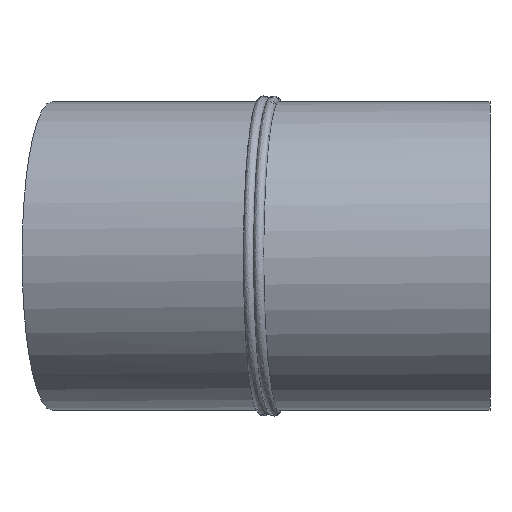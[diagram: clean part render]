
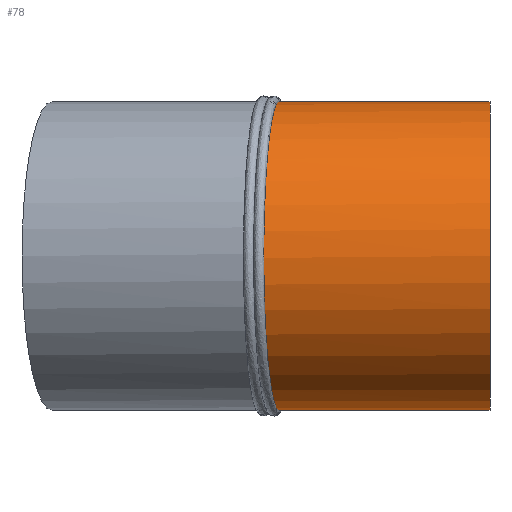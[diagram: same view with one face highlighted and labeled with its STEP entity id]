
A CAD part, left-side view. The second image highlights one B-rep face of the part: STEP entity #78.
In plain terms, the highlighted cylindrical face has radius 225 mm (diameter 450 mm), a full revolution.
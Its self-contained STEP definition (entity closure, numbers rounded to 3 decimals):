
#32=B_SPLINE_CURVE_WITH_KNOTS('',3,(#131,#132,#133,#134,#135,#136,#137,
#138,#139,#140,#141,#142,#143,#144,#145,#146,#147,#148,#149,#150,#151,#152,
#153,#154,#155,#156,#157,#158,#159,#160,#161,#162,#163,#164,#165,#166,#167,
#168,#169,#170,#171,#172,#173,#174,#175,#176,#177,#178,#179,#180,#181,#182,
#183,#184,#185,#186,#187,#188,#189,#190,#191,#192,#193,#194,#195,#196,#197,
#198,#199,#200,#201,#202,#203,#204,#205,#206,#207,#208,#209,#210,#211,#212,
#213,#214,#215,#216,#217,#218,#219,#220),.UNSPECIFIED.,.T.,.F.,(1,1,1,1,
1,1,1,1,1,1,1,1,1,1,1,1,1,1,1,1,1,1,1,1,1,1,1,1,1,1,1,1,1,1,1,1,1,1,1,1,
1,1,1,1,1,1,1,1,1,1,1,1,1,1,1,1,1,1,1,1,1,1,1,1,1,1,1,1,1,1,1,1,1,1,1,1,
1,1,1,1,1,1,1,1,1,1,1,1,1,1,1,1,1,1),(-0.056,-0.044,
-0.022,0.,0.022,0.044,
0.067,0.089,0.1,0.111,
0.133,0.156,0.178,0.2,
0.211,0.222,0.233,0.245,
0.267,0.289,0.3,0.311,
0.322,0.334,0.345,0.356,
0.378,0.4,0.411,0.422,
0.445,0.467,0.478,0.489,
0.511,0.534,0.556,0.567,
0.578,0.589,0.6,0.623,
0.645,0.667,0.689,0.7,
0.711,0.723,0.734,0.756,
0.778,0.789,0.8,0.812,
0.823,0.834,0.845,0.856,
0.867,0.889,0.912,0.934,
0.956,0.967,0.978,1.001,
1.023,1.045,1.067,1.089,1.112,
1.123,1.134,1.156,1.178,1.201,
1.223,1.234,1.245,1.256,1.267,
1.278,1.29,1.312,1.334,1.345,
1.356,1.367,1.378,1.401,1.423,
1.445,1.467,1.49),.UNSPECIFIED.);
#34=ORIENTED_EDGE('',*,*,#44,.T.);
#35=ORIENTED_EDGE('',*,*,#45,.F.);
#44=EDGE_CURVE('',#49,#49,#54,.T.);
#45=EDGE_CURVE('',#50,#50,#32,.T.);
#49=VERTEX_POINT('',#130);
#50=VERTEX_POINT('',#221);
#54=CIRCLE('',#99,225.);
#56=EDGE_LOOP('',(#34));
#57=EDGE_LOOP('',(#35));
#66=FACE_BOUND('',#56,.T.);
#67=FACE_BOUND('',#57,.T.);
#76=CYLINDRICAL_SURFACE('',#98,225.);
#78=ADVANCED_FACE('',(#66,#67),#76,.T.);
#98=AXIS2_PLACEMENT_3D('',#128,#109,#110);
#99=AXIS2_PLACEMENT_3D('',#129,#111,#112);
#109=DIRECTION('',(0.,-1.,0.));
#110=DIRECTION('',(0.,0.,-1.));
#111=DIRECTION('',(0.,1.,0.));
#112=DIRECTION('',(1.,0.,0.));
#128=CARTESIAN_POINT('',(0.,650.,0.));
#129=CARTESIAN_POINT('',(0.,0.,0.));
#130=CARTESIAN_POINT('',(225.,0.,0.));
#131=CARTESIAN_POINT('',(22.038,304.976,-224.276));
#132=CARTESIAN_POINT('',(0.03,307.157,-225.364));
#133=CARTESIAN_POINT('',(-22.159,309.357,-224.27));
#134=CARTESIAN_POINT('',(-43.887,311.516,-221.04));
#135=CARTESIAN_POINT('',(-65.198,313.635,-215.724));
#136=CARTESIAN_POINT('',(-82.613,315.369,-209.512));
#137=CARTESIAN_POINT('',(-96.085,316.711,-203.552));
#138=CARTESIAN_POINT('',(-109.292,318.028,-196.915));
#139=CARTESIAN_POINT('',(-125.079,319.604,-187.467));
#140=CARTESIAN_POINT('',(-142.924,321.386,-174.242));
#141=CARTESIAN_POINT('',(-159.161,323.01,-159.536));
#142=CARTESIAN_POINT('',(-171.44,324.239,-146.038));
#143=CARTESIAN_POINT('',(-180.487,325.145,-134.5));
#144=CARTESIAN_POINT('',(-186.895,325.787,-125.445));
#145=CARTESIAN_POINT('',(-192.847,326.383,-116.085));
#146=CARTESIAN_POINT('',(-200.144,327.115,-103.262));
#147=CARTESIAN_POINT('',(-208.1,327.913,-86.507));
#148=CARTESIAN_POINT('',(-214.339,328.539,-69.136));
#149=CARTESIAN_POINT('',(-218.308,328.937,-54.844));
#150=CARTESIAN_POINT('',(-220.744,329.182,-44.023));
#151=CARTESIAN_POINT('',(-222.643,329.373,-33.106));
#152=CARTESIAN_POINT('',(-224.007,329.509,-22.074));
#153=CARTESIAN_POINT('',(-224.822,329.591,-10.993));
#154=CARTESIAN_POINT('',(-225.181,329.628,3.775));
#155=CARTESIAN_POINT('',(-224.257,329.534,22.317));
#156=CARTESIAN_POINT('',(-221.528,329.261,40.577));
#157=CARTESIAN_POINT('',(-218.255,328.932,55.052));
#158=CARTESIAN_POINT('',(-214.299,328.535,69.248));
#159=CARTESIAN_POINT('',(-208.11,327.914,86.459));
#160=CARTESIAN_POINT('',(-200.285,327.129,102.981));
#161=CARTESIAN_POINT('',(-193.036,326.402,115.772));
#162=CARTESIAN_POINT('',(-185.101,325.607,128.291));
#163=CARTESIAN_POINT('',(-174.109,324.506,143.091));
#164=CARTESIAN_POINT('',(-159.171,323.011,159.541));
#165=CARTESIAN_POINT('',(-145.503,321.644,171.899));
#166=CARTESIAN_POINT('',(-133.831,320.478,180.984));
#167=CARTESIAN_POINT('',(-124.79,319.575,187.332));
#168=CARTESIAN_POINT('',(-115.447,318.642,193.23));
#169=CARTESIAN_POINT('',(-102.573,317.358,200.497));
#170=CARTESIAN_POINT('',(-85.933,315.7,208.336));
#171=CARTESIAN_POINT('',(-65.031,313.618,215.773));
#172=CARTESIAN_POINT('',(-43.805,311.508,221.053));
#173=CARTESIAN_POINT('',(-25.795,309.719,223.725));
#174=CARTESIAN_POINT('',(-11.212,308.272,224.81));
#175=CARTESIAN_POINT('',(-0.156,307.175,225.091));
#176=CARTESIAN_POINT('',(10.893,306.08,224.826));
#177=CARTESIAN_POINT('',(25.554,304.628,223.756));
#178=CARTESIAN_POINT('',(43.831,302.82,221.058));
#179=CARTESIAN_POINT('',(61.666,301.058,216.604));
#180=CARTESIAN_POINT('',(75.695,299.673,211.981));
#181=CARTESIAN_POINT('',(86.005,298.655,208.011));
#182=CARTESIAN_POINT('',(96.099,297.66,203.545));
#183=CARTESIAN_POINT('',(105.989,296.685,198.576));
#184=CARTESIAN_POINT('',(115.627,295.736,193.122));
#185=CARTESIAN_POINT('',(124.961,294.817,187.218));
#186=CARTESIAN_POINT('',(134.005,293.927,180.856));
#187=CARTESIAN_POINT('',(145.669,292.78,171.758));
#188=CARTESIAN_POINT('',(159.32,291.439,159.393));
#189=CARTESIAN_POINT('',(174.243,289.974,142.922));
#190=CARTESIAN_POINT('',(187.295,288.693,125.318));
#191=CARTESIAN_POINT('',(196.708,287.771,109.658));
#192=CARTESIAN_POINT('',(203.333,287.121,96.549));
#193=CARTESIAN_POINT('',(209.359,286.531,83.006));
#194=CARTESIAN_POINT('',(215.598,285.92,65.629));
#195=CARTESIAN_POINT('',(221.022,285.389,44.024));
#196=CARTESIAN_POINT('',(224.265,285.072,22.193));
#197=CARTESIAN_POINT('',(225.366,284.964,0.034));
#198=CARTESIAN_POINT('',(224.271,285.072,-22.198));
#199=CARTESIAN_POINT('',(221.535,285.339,-40.528));
#200=CARTESIAN_POINT('',(218.284,285.657,-54.937));
#201=CARTESIAN_POINT('',(214.309,286.046,-69.228));
#202=CARTESIAN_POINT('',(208.062,286.658,-86.601));
#203=CARTESIAN_POINT('',(198.497,287.595,-106.711));
#204=CARTESIAN_POINT('',(187.161,288.706,-125.52));
#205=CARTESIAN_POINT('',(176.27,289.775,-140.17));
#206=CARTESIAN_POINT('',(166.691,290.715,-151.26));
#207=CARTESIAN_POINT('',(159.052,291.465,-159.275));
#208=CARTESIAN_POINT('',(151.015,292.255,-166.914));
#209=CARTESIAN_POINT('',(142.641,293.078,-174.124));
#210=CARTESIAN_POINT('',(133.913,293.936,-180.923));
#211=CARTESIAN_POINT('',(121.814,295.127,-189.425));
#212=CARTESIAN_POINT('',(106.018,296.682,-198.868));
#213=CARTESIAN_POINT('',(89.294,298.331,-206.752));
#214=CARTESIAN_POINT('',(75.563,299.686,-212.028));
#215=CARTESIAN_POINT('',(65.054,300.723,-215.485));
#216=CARTESIAN_POINT('',(54.392,301.776,-218.419));
#217=CARTESIAN_POINT('',(40.098,303.19,-221.609));
#218=CARTESIAN_POINT('',(22.038,304.976,-224.276));
#219=CARTESIAN_POINT('',(0.03,307.157,-225.364));
#220=CARTESIAN_POINT('',(-22.159,309.357,-224.27));
#221=CARTESIAN_POINT('',(0.,307.16,-225.));
